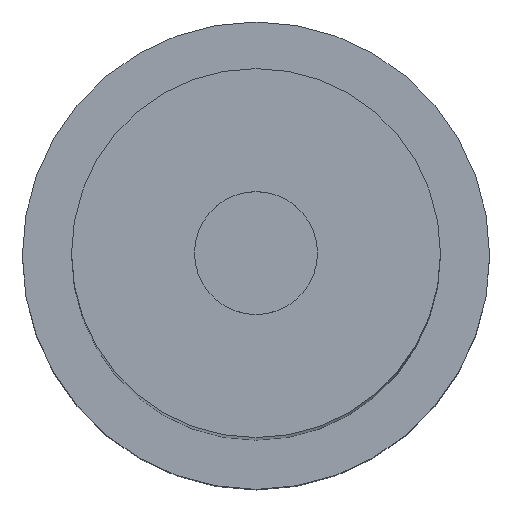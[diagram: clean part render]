
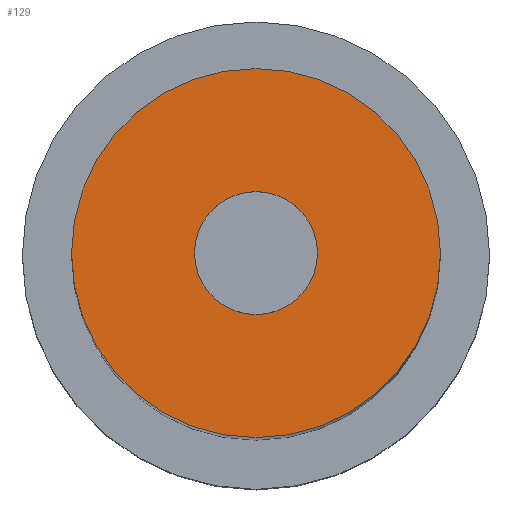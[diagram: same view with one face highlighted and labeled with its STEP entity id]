
A CAD part, top view. The second image highlights one B-rep face of the part: STEP entity #129.
In plain terms, the highlighted planar face has unit normal (0, 0, 1) as drawn and (-1, 0, 0) by its records, which use the part's own axes.
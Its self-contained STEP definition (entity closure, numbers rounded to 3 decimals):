
#14 = EDGE_CURVE ( 'NONE', #49, #47, #198, .T. ) ;
#34 = VERTEX_POINT ( 'NONE', #188 ) ;
#36 = EDGE_CURVE ( 'NONE', #34, #37, #187, .T. ) ;
#37 = VERTEX_POINT ( 'NONE', #182 ) ;
#47 = VERTEX_POINT ( 'NONE', #269 ) ;
#49 = VERTEX_POINT ( 'NONE', #267 ) ;
#75 = ORIENTED_EDGE ( 'NONE', *, *, #76, .T. ) ;
#76 = EDGE_CURVE ( 'NONE', #47, #49, #248, .T. ) ;
#80 = ORIENTED_EDGE ( 'NONE', *, *, #85, .F. ) ;
#85 = EDGE_CURVE ( 'NONE', #37, #34, #302, .T. ) ;
#86 = ORIENTED_EDGE ( 'NONE', *, *, #14, .T. ) ;
#118 = ORIENTED_EDGE ( 'NONE', *, *, #36, .F. ) ;
#119 = EDGE_LOOP ( 'NONE', ( #86, #75 ) ) ;
#120 = EDGE_LOOP ( 'NONE', ( #80, #118 ) ) ;
#129 = ADVANCED_FACE ( 'NONE', ( #434, #433 ), #432, .F. ) ;
#154 = DIRECTION ( 'NONE',  ( 0., 0., -1. ) ) ;
#155 = DIRECTION ( 'NONE',  ( 1., 0., 0. ) ) ;
#182 = CARTESIAN_POINT ( 'NONE',  ( 0., 0., 1.5 ) ) ;
#183 = DIRECTION ( 'NONE',  ( 0., 0., -1. ) ) ;
#184 = DIRECTION ( 'NONE',  ( 1., 0., 0. ) ) ;
#185 = CARTESIAN_POINT ( 'NONE',  ( 0., 0., 0. ) ) ;
#186 = AXIS2_PLACEMENT_3D ( 'NONE', #185, #184, #183 ) ;
#187 = CIRCLE ( 'NONE', #186, 1.5 ) ;
#188 = CARTESIAN_POINT ( 'NONE',  ( 0., 0., -1.5 ) ) ;
#198 = CIRCLE ( 'NONE', #312, 0.5 ) ;
#244 = DIRECTION ( 'NONE',  ( 0., 0., -1. ) ) ;
#245 = DIRECTION ( 'NONE',  ( 1., 0., 0. ) ) ;
#246 = CARTESIAN_POINT ( 'NONE',  ( 0., 0., 0. ) ) ;
#247 = AXIS2_PLACEMENT_3D ( 'NONE', #246, #245, #244 ) ;
#248 = CIRCLE ( 'NONE', #247, 0.5 ) ;
#267 = CARTESIAN_POINT ( 'NONE',  ( 0., 0., 0.5 ) ) ;
#269 = CARTESIAN_POINT ( 'NONE',  ( 0., 0., -0.5 ) ) ;
#298 = DIRECTION ( 'NONE',  ( 0., 0., -1. ) ) ;
#299 = DIRECTION ( 'NONE',  ( 1., 0., 0. ) ) ;
#300 = CARTESIAN_POINT ( 'NONE',  ( 0., 0., 0. ) ) ;
#301 = AXIS2_PLACEMENT_3D ( 'NONE', #300, #299, #298 ) ;
#302 = CIRCLE ( 'NONE', #301, 1.5 ) ;
#311 = CARTESIAN_POINT ( 'NONE',  ( 0., 0., 0. ) ) ;
#312 = AXIS2_PLACEMENT_3D ( 'NONE', #311, #155, #154 ) ;
#428 = DIRECTION ( 'NONE',  ( 0., 0., -1. ) ) ;
#429 = DIRECTION ( 'NONE',  ( 1., 0., 0. ) ) ;
#430 = CARTESIAN_POINT ( 'NONE',  ( 0., 0., 0. ) ) ;
#431 = AXIS2_PLACEMENT_3D ( 'NONE', #430, #429, #428 ) ;
#432 = PLANE ( 'NONE',  #431 ) ;
#433 = FACE_BOUND ( 'NONE', #119, .T. ) ;
#434 = FACE_OUTER_BOUND ( 'NONE', #120, .T. ) ;
